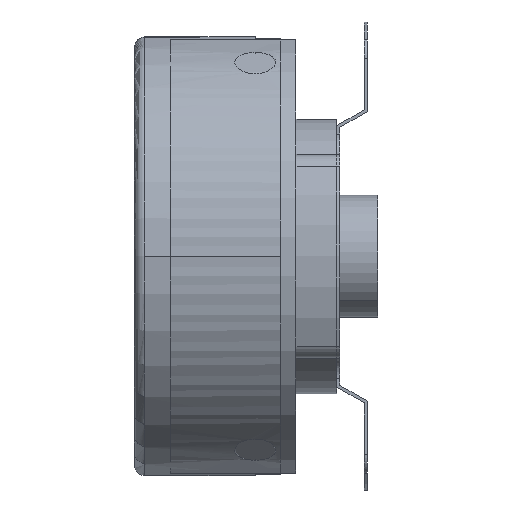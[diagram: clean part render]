
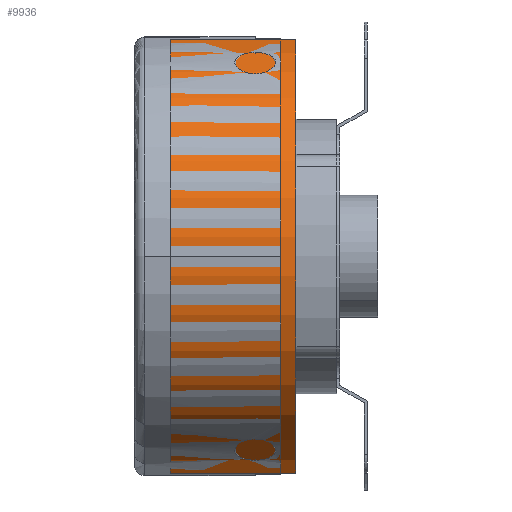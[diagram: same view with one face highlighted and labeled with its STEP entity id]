
A CAD part, left-side view. The second image highlights one B-rep face of the part: STEP entity #9936.
In plain terms, the highlighted cylindrical face has radius 22 mm (diameter 44 mm), a partial arc.
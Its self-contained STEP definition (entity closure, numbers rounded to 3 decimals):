
#307 = AXIS2_PLACEMENT_3D ( 'NONE', #970, #2091, #5166 ) ;
#970 = CARTESIAN_POINT ( 'NONE',  ( 0., 0., 0. ) ) ;
#1155 = EDGE_CURVE ( 'NONE', #8019, #4308, #11507, .T. ) ;
#1654 = LINE ( 'NONE', #6825, #12321 ) ;
#2091 = DIRECTION ( 'NONE',  ( 0., -1., 0. ) ) ;
#2146 = DIRECTION ( 'NONE',  ( 0., 1., 0. ) ) ;
#2224 = CARTESIAN_POINT ( 'NONE',  ( 5.632, 12.35, -21.267 ) ) ;
#2340 = CIRCLE ( 'NONE', #307, 22. ) ;
#2577 = DIRECTION ( 'NONE',  ( 0., 1., 0. ) ) ;
#3269 = ORIENTED_EDGE ( 'NONE', *, *, #11153, .F. ) ;
#3824 = CARTESIAN_POINT ( 'NONE',  ( 5.632, 12.35, 21.267 ) ) ;
#4308 = VERTEX_POINT ( 'NONE', #2224 ) ;
#4747 = ORIENTED_EDGE ( 'NONE', *, *, #11665, .T. ) ;
#5166 = DIRECTION ( 'NONE',  ( 0., 0., -1. ) ) ;
#6037 = VERTEX_POINT ( 'NONE', #13157 ) ;
#6166 = VERTEX_POINT ( 'NONE', #6196 ) ;
#6196 = CARTESIAN_POINT ( 'NONE',  ( 5.632, 0., 21.267 ) ) ;
#6619 = DIRECTION ( 'NONE',  ( 0., 0., 1. ) ) ;
#6825 = CARTESIAN_POINT ( 'NONE',  ( 5.632, 1.5, -21.267 ) ) ;
#7406 = DIRECTION ( 'NONE',  ( 0., -1., 0. ) ) ;
#8019 = VERTEX_POINT ( 'NONE', #3824 ) ;
#9094 = ORIENTED_EDGE ( 'NONE', *, *, #1155, .F. ) ;
#9201 = EDGE_LOOP ( 'NONE', ( #4747, #9094, #11143, #3269 ) ) ;
#9542 = AXIS2_PLACEMENT_3D ( 'NONE', #12870, #7406, #10631 ) ;
#9907 = CARTESIAN_POINT ( 'NONE',  ( 0., 12.35, 0. ) ) ;
#9936 = ADVANCED_FACE ( 'NONE', ( #12734 ), #11821, .T. ) ;
#10631 = DIRECTION ( 'NONE',  ( 0., 0., -1. ) ) ;
#11143 = ORIENTED_EDGE ( 'NONE', *, *, #12107, .T. ) ;
#11153 = EDGE_CURVE ( 'NONE', #6037, #6166, #2340, .T. ) ;
#11166 = VECTOR ( 'NONE', #11644, 1000. ) ;
#11377 = LINE ( 'NONE', #12497, #11166 ) ;
#11507 = CIRCLE ( 'NONE', #12421, 22. ) ;
#11644 = DIRECTION ( 'NONE',  ( 0., -1., 0. ) ) ;
#11665 = EDGE_CURVE ( 'NONE', #6037, #4308, #1654, .T. ) ;
#11821 = CYLINDRICAL_SURFACE ( 'NONE', #9542, 22. ) ;
#12107 = EDGE_CURVE ( 'NONE', #8019, #6166, #11377, .T. ) ;
#12321 = VECTOR ( 'NONE', #2577, 1000. ) ;
#12421 = AXIS2_PLACEMENT_3D ( 'NONE', #9907, #2146, #6619 ) ;
#12497 = CARTESIAN_POINT ( 'NONE',  ( 5.632, 1.5, 21.267 ) ) ;
#12734 = FACE_OUTER_BOUND ( 'NONE', #9201, .T. ) ;
#12870 = CARTESIAN_POINT ( 'NONE',  ( 0., 1.5, 0. ) ) ;
#13157 = CARTESIAN_POINT ( 'NONE',  ( 5.632, 0., -21.267 ) ) ;
